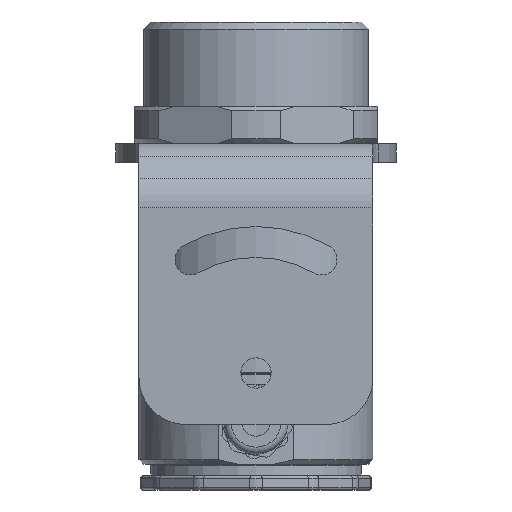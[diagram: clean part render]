
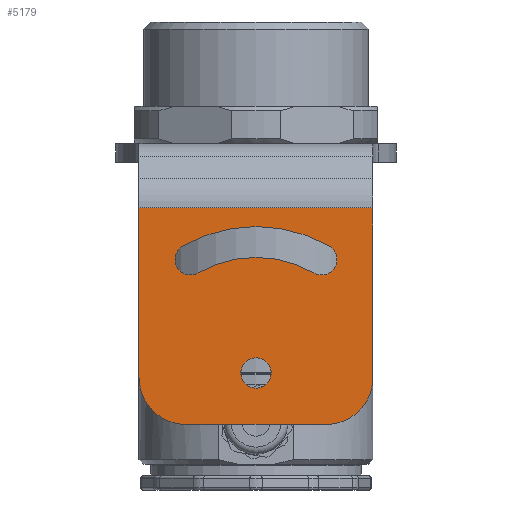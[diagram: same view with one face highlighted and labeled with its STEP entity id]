
A CAD part, front view. The second image highlights one B-rep face of the part: STEP entity #5179.
In plain terms, the highlighted planar face has unit normal (0, -1, 0).
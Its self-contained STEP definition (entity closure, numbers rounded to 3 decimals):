
#4613=DIRECTION('',(0.,0.,1.));
#4614=VECTOR('',#4613,36.272);
#4615=CARTESIAN_POINT('',(25.,0.,-50.));
#4616=LINE('',#4615,#4614);
#4649=DIRECTION('',(-1.,0.,0.));
#4650=VECTOR('',#4649,30.);
#4651=CARTESIAN_POINT('',(15.,0.,-60.));
#4652=LINE('',#4651,#4650);
#4653=CARTESIAN_POINT('',(-15.,0.,-50.));
#4654=DIRECTION('',(0.,1.,0.));
#4655=DIRECTION('',(0.,0.,-1.));
#4656=AXIS2_PLACEMENT_3D('',#4653,#4654,#4655);
#4658=DIRECTION('',(0.,0.,1.));
#4659=VECTOR('',#4658,36.272);
#4660=CARTESIAN_POINT('',(-25.,0.,-50.));
#4661=LINE('',#4660,#4659);
#4662=CARTESIAN_POINT('',(15.,0.,-50.));
#4663=DIRECTION('',(0.,1.,0.));
#4664=DIRECTION('',(1.,0.,0.));
#4665=AXIS2_PLACEMENT_3D('',#4662,#4663,#4664);
#4667=CARTESIAN_POINT('',(0.,0.,-49.));
#4668=DIRECTION('',(0.,-1.,0.));
#4669=DIRECTION('',(0.,0.,1.));
#4670=AXIS2_PLACEMENT_3D('',#4667,#4668,#4669);
#4672=CARTESIAN_POINT('',(0.,0.,-49.));
#4673=DIRECTION('',(0.,-1.,0.));
#4674=DIRECTION('',(0.,0.,-1.));
#4675=AXIS2_PLACEMENT_3D('',#4672,#4673,#4674);
#4677=CARTESIAN_POINT('',(-14.,0.,-24.751));
#4678=DIRECTION('',(0.,-1.,0.));
#4679=DIRECTION('',(0.,0.,-1.));
#4680=AXIS2_PLACEMENT_3D('',#4677,#4678,#4679);
#4682=CARTESIAN_POINT('',(0.,0.,-49.));
#4683=DIRECTION('',(0.,1.,0.));
#4684=DIRECTION('',(-0.5,0.,0.866));
#4685=AXIS2_PLACEMENT_3D('',#4682,#4683,#4684);
#4687=CARTESIAN_POINT('',(0.,0.,-49.));
#4688=DIRECTION('',(0.,1.,0.));
#4689=DIRECTION('',(0.,0.,1.));
#4690=AXIS2_PLACEMENT_3D('',#4687,#4688,#4689);
#4692=CARTESIAN_POINT('',(14.,0.,-24.751));
#4693=DIRECTION('',(0.,-1.,0.));
#4694=DIRECTION('',(-0.5,0.,-0.866));
#4695=AXIS2_PLACEMENT_3D('',#4692,#4693,#4694);
#4697=CARTESIAN_POINT('',(14.,0.,-24.751));
#4698=DIRECTION('',(0.,-1.,0.));
#4699=DIRECTION('',(0.,0.,-1.));
#4700=AXIS2_PLACEMENT_3D('',#4697,#4698,#4699);
#4702=CARTESIAN_POINT('',(0.,0.,-49.));
#4703=DIRECTION('',(0.,-1.,0.));
#4704=DIRECTION('',(0.5,0.,0.866));
#4705=AXIS2_PLACEMENT_3D('',#4702,#4703,#4704);
#4707=CARTESIAN_POINT('',(0.,0.,-49.));
#4708=DIRECTION('',(0.,-1.,0.));
#4709=DIRECTION('',(0.,0.,1.));
#4710=AXIS2_PLACEMENT_3D('',#4707,#4708,#4709);
#4712=CARTESIAN_POINT('',(-14.,0.,-24.751));
#4713=DIRECTION('',(0.,-1.,0.));
#4714=DIRECTION('',(-0.5,0.,0.866));
#4715=AXIS2_PLACEMENT_3D('',#4712,#4713,#4714);
#4737=DIRECTION('',(-1.,0.,0.));
#4738=VECTOR('',#4737,50.);
#4739=CARTESIAN_POINT('',(25.,0.,-13.728));
#4740=LINE('',#4739,#4738);
#4898=CARTESIAN_POINT('',(-25.,0.,-13.728));
#4899=VERTEX_POINT('',#4898);
#4900=CARTESIAN_POINT('',(-25.,0.,-50.));
#4901=VERTEX_POINT('',#4900);
#4930=CARTESIAN_POINT('',(25.,0.,-50.));
#4931=CARTESIAN_POINT('',(25.,0.,-13.728));
#4932=VERTEX_POINT('',#4930);
#4933=VERTEX_POINT('',#4931);
#4944=CARTESIAN_POINT('',(15.,0.,-60.));
#4945=CARTESIAN_POINT('',(-15.,0.,-60.));
#4946=VERTEX_POINT('',#4944);
#4947=VERTEX_POINT('',#4945);
#4948=CARTESIAN_POINT('',(0.,0.,-45.75));
#4949=CARTESIAN_POINT('',(0.,0.,-52.25));
#4950=VERTEX_POINT('',#4948);
#4951=VERTEX_POINT('',#4949);
#4952=CARTESIAN_POINT('',(-14.,0.,-28.051));
#4953=CARTESIAN_POINT('',(-12.35,0.,
-27.609));
#4954=VERTEX_POINT('',#4952);
#4955=VERTEX_POINT('',#4953);
#4956=CARTESIAN_POINT('',(0.,0.,-24.3));
#4957=CARTESIAN_POINT('',(12.35,0.,
-27.609));
#4958=VERTEX_POINT('',#4956);
#4959=VERTEX_POINT('',#4957);
#4960=CARTESIAN_POINT('',(14.,0.,-28.051));
#4961=VERTEX_POINT('',#4960);
#4962=CARTESIAN_POINT('',(15.65,0.,
-21.893));
#4963=VERTEX_POINT('',#4962);
#4964=CARTESIAN_POINT('',(0.,0.,-17.7));
#4965=CARTESIAN_POINT('',(-15.65,0.,
-21.893));
#4966=VERTEX_POINT('',#4964);
#4967=VERTEX_POINT('',#4965);
#5138=CARTESIAN_POINT('',(30.,0.,-10.));
#5139=DIRECTION('',(0.,1.,0.));
#5140=DIRECTION('',(0.,0.,1.));
#5141=AXIS2_PLACEMENT_3D('',#5138,#5139,#5140);
#5142=PLANE('',#5141);
#5144=ORIENTED_EDGE('',*,*,#5143,.T.);
#5146=ORIENTED_EDGE('',*,*,#5145,.T.);
#5147=ORIENTED_EDGE('',*,*,#5059,.T.);
#5149=ORIENTED_EDGE('',*,*,#5148,.F.);
#5150=ORIENTED_EDGE('',*,*,#5114,.F.);
#5152=ORIENTED_EDGE('',*,*,#5151,.T.);
#5153=EDGE_LOOP('',(#5144,#5146,#5147,#5149,#5150,#5152));
#5154=FACE_OUTER_BOUND('',#5153,.F.);
#5156=ORIENTED_EDGE('',*,*,#5155,.T.);
#5158=ORIENTED_EDGE('',*,*,#5157,.T.);
#5159=EDGE_LOOP('',(#5156,#5158));
#5160=FACE_BOUND('',#5159,.F.);
#5162=ORIENTED_EDGE('',*,*,#5161,.T.);
#5164=ORIENTED_EDGE('',*,*,#5163,.T.);
#5166=ORIENTED_EDGE('',*,*,#5165,.T.);
#5168=ORIENTED_EDGE('',*,*,#5167,.T.);
#5170=ORIENTED_EDGE('',*,*,#5169,.T.);
#5172=ORIENTED_EDGE('',*,*,#5171,.T.);
#5174=ORIENTED_EDGE('',*,*,#5173,.T.);
#5176=ORIENTED_EDGE('',*,*,#5175,.T.);
#5177=EDGE_LOOP('',(#5162,#5164,#5166,#5168,#5170,#5172,#5174,#5176));
#5178=FACE_BOUND('',#5177,.F.);
#5179=ADVANCED_FACE('',(#5154,#5160,#5178),#5142,.F.);
#4657=CIRCLE('',#4656,10.);
#4666=CIRCLE('',#4665,10.);
#4671=CIRCLE('',#4670,3.25);
#4676=CIRCLE('',#4675,3.25);
#4681=CIRCLE('',#4680,3.3);
#4686=CIRCLE('',#4685,24.7);
#4691=CIRCLE('',#4690,24.7);
#4696=CIRCLE('',#4695,3.3);
#4701=CIRCLE('',#4700,3.3);
#4706=CIRCLE('',#4705,31.3);
#4711=CIRCLE('',#4710,31.3);
#4716=CIRCLE('',#4715,3.3);
#5059=EDGE_CURVE('',#4901,#4899,#4661,.T.);
#5114=EDGE_CURVE('',#4932,#4933,#4616,.T.);
#5143=EDGE_CURVE('',#4946,#4947,#4652,.T.);
#5145=EDGE_CURVE('',#4947,#4901,#4657,.T.);
#5148=EDGE_CURVE('',#4933,#4899,#4740,.T.);
#5151=EDGE_CURVE('',#4932,#4946,#4666,.T.);
#5155=EDGE_CURVE('',#4950,#4951,#4671,.T.);
#5157=EDGE_CURVE('',#4951,#4950,#4676,.T.);
#5161=EDGE_CURVE('',#4954,#4955,#4681,.T.);
#5163=EDGE_CURVE('',#4955,#4958,#4686,.T.);
#5165=EDGE_CURVE('',#4958,#4959,#4691,.T.);
#5167=EDGE_CURVE('',#4959,#4961,#4696,.T.);
#5169=EDGE_CURVE('',#4961,#4963,#4701,.T.);
#5171=EDGE_CURVE('',#4963,#4966,#4706,.T.);
#5173=EDGE_CURVE('',#4966,#4967,#4711,.T.);
#5175=EDGE_CURVE('',#4967,#4954,#4716,.T.);
